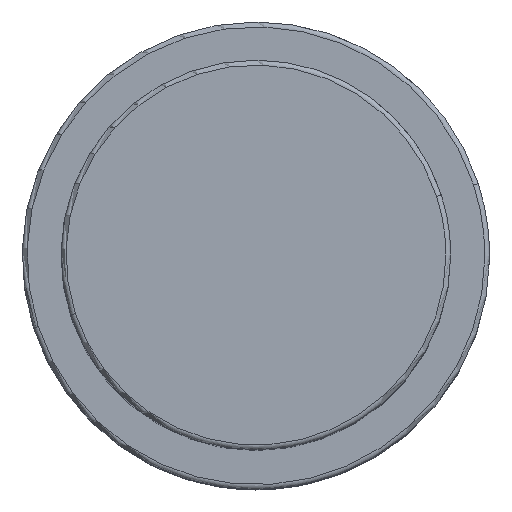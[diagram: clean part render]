
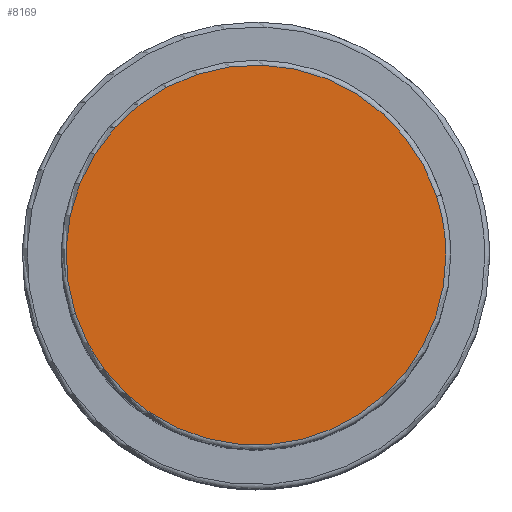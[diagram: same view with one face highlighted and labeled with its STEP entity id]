
A CAD part, top view. The second image highlights one B-rep face of the part: STEP entity #8169.
In plain terms, the highlighted planar face has unit normal (0, 0, 1).
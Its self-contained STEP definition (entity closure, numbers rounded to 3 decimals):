
#8135=CARTESIAN_POINT('',(19.5,0.0,58.5));
#8136=VERTEX_POINT('',#8135);
#8137=CARTESIAN_POINT('',(18.546,6.026,58.5));
#8138=VERTEX_POINT('',#8137);
#8139=CARTESIAN_POINT('',(0.0,0.0,58.5));
#8140=DIRECTION('',(0.0,0.0,1.0));
#8141=DIRECTION('',(1.0,0.0,0.0));
#8142=AXIS2_PLACEMENT_3D('',#8139,#8140,#8141);
#8143=CIRCLE('',#8142,19.5);
#8144=EDGE_CURVE('no 4176',#8136,#8138,#8143,.T.);
#8145=ORIENTED_EDGE('',*,*,#8144,.T.);
#8146=CARTESIAN_POINT('',(-18.546,-6.026,58.5));
#8147=VERTEX_POINT('',#8146);
#8148=CARTESIAN_POINT('',(0.0,0.0,58.5));
#8149=DIRECTION('',(0.0,0.0,1.0));
#8150=DIRECTION('',(1.0,0.0,0.0));
#8151=AXIS2_PLACEMENT_3D('',#8148,#8149,#8150);
#8152=CIRCLE('',#8151,19.5);
#8153=EDGE_CURVE('no 4182',#8138,#8147,#8152,.T.);
#8154=ORIENTED_EDGE('',*,*,#8153,.T.);
#8155=CARTESIAN_POINT('',(0.0,0.0,58.5));
#8156=DIRECTION('',(0.0,0.0,1.0));
#8157=DIRECTION('',(1.0,0.0,0.0));
#8158=AXIS2_PLACEMENT_3D('',#8155,#8156,#8157);
#8159=CIRCLE('',#8158,19.5);
#8160=EDGE_CURVE('no 4186',#8147,#8136,#8159,.T.);
#8161=ORIENTED_EDGE('',*,*,#8160,.T.);
#8162=EDGE_LOOP('',(#8145,#8154,#8161));
#8163=FACE_OUTER_BOUND('',#8162,.T.);
#8164=CARTESIAN_POINT('',(0.0,0.0,58.5));
#8165=DIRECTION('',(0.0,0.0,1.0));
#8166=DIRECTION('',(1.0,0.0,0.0));
#8167=AXIS2_PLACEMENT_3D('',#8164,#8165,#8166);
#8168=PLANE('',#8167);
#8169=ADVANCED_FACE('no 4167',(#8163),#8168,.T.);
